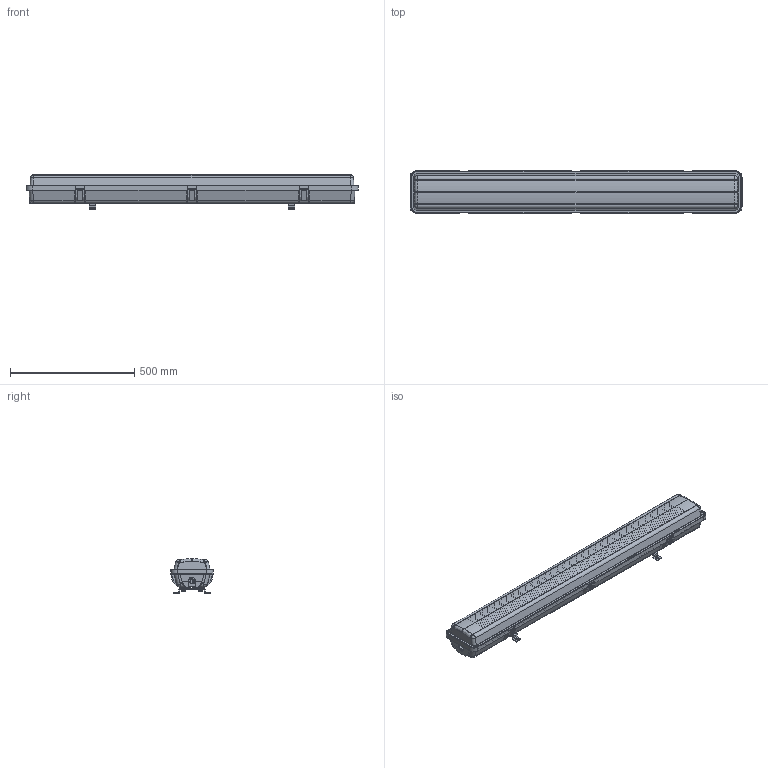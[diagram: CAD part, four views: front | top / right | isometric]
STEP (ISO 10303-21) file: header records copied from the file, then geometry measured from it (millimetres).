
FILE_DESCRIPTION((''),'2;1');
FILE_NAME('C:\Users\L.A.Ronzhin\Desktop\Новая папка (3)\ТЗ 40076\Светильники ГОРЭЛТЕХ\СГЛ01\СГЛ01-4960С-220AC_П.stp','2019-04-11T08:22:26',('L.A.Ronzhin'),(''),'Autodesk Inventor 2012','Autodesk Inventor 2012','');
FILE_SCHEMA(('CONFIG_CONTROL_DESIGN'));
Length unit declared in the file: millimetre
Products named in the file (1): СГЛ01-4960С-220AC_П_Внешний контур_1
Bounding box: 1335 x 170 x 140 mm (x, y, z)
Surface area: 1904151.2 mm2 (no closed solid volume)
Topology: 0 solids, 96 shells, 7708 faces, 20036 edges, 13076 vertices
Faces by surface type: plane 4565, bspline 1936, cylinder 792, cone 305, torus 82, sphere 28
Full cylindrical faces by diameter (mm): 2.459 x2, 2.5 x11, 2.6 x8, 3 x8, 3.5 x5, 3.9 x6, 4 x51, 4.134 x4, 4.3 x8, 4.567 x6, 5 x24, 5.3 x10, 6 x12, 6.3 x2, 6.7 x4, 7 x9, 7.323 x8, 8 x12, 8.4 x8, 9 x8, 10 x5, 10.5 x1, 11.4 x8, 12 x2, 13 x1, 15 x10, 16 x8, 16.5 x2, 22 x4, 27 x2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
Entity records: 250496 total; most frequent: CARTESIAN_POINT 68911, ORIENTED_EDGE 39202, DIRECTION 29153, EDGE_CURVE 19601, VERTEX_POINT 13006, VECTOR 12695, LINE 12695, EDGE_LOOP 8779
